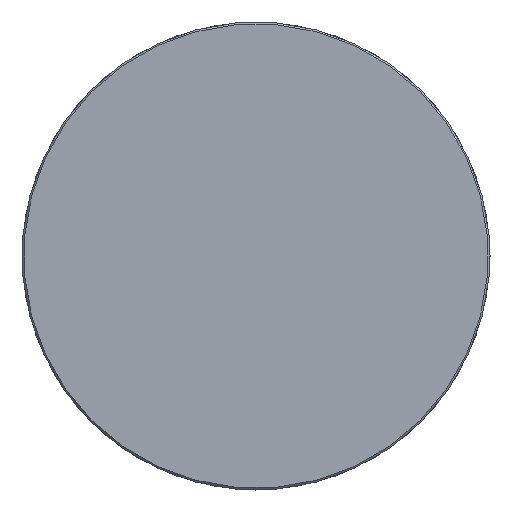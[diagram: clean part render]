
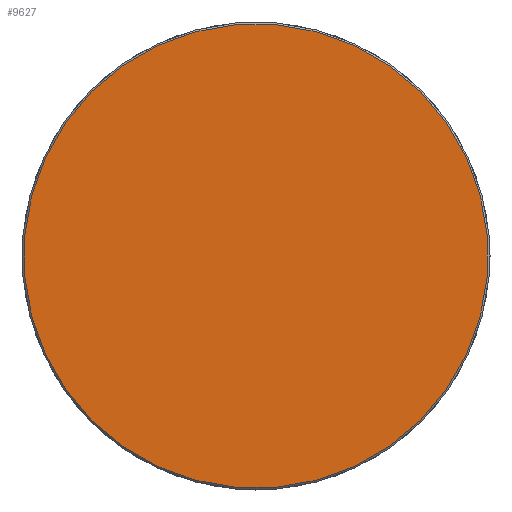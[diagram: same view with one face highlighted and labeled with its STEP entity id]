
A CAD part, left-side view. The second image highlights one B-rep face of the part: STEP entity #9627.
In plain terms, the highlighted planar face has unit normal (-1, 0, 0).
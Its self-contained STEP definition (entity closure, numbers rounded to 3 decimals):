
#391 = EDGE_LOOP ( 'NONE', ( #4073, #4225 ) ) ;
#2979 = CARTESIAN_POINT ( 'NONE',  ( -61.043, 1.63, -4.779 ) ) ;
#2980 = DIRECTION ( 'NONE',  ( -1., 0., 0. ) ) ;
#2981 = DIRECTION ( 'NONE',  ( 0., -0.707, -0.707 ) ) ;
#3534 = FACE_OUTER_BOUND ( 'NONE', #391, .T. ) ;
#4073 = ORIENTED_EDGE ( 'NONE', *, *, #19764, .T. ) ;
#4225 = ORIENTED_EDGE ( 'NONE', *, *, #19628, .T. ) ;
#5660 = CARTESIAN_POINT ( 'NONE',  ( -61.043, 20.015, -23.164 ) ) ;
#5662 = PLANE ( 'NONE',  #23131 ) ;
#5665 = DIRECTION ( 'NONE',  ( 1., 0., 0. ) ) ;
#5666 = DIRECTION ( 'NONE',  ( 0., -0.707, -0.707 ) ) ;
#9627 = ADVANCED_FACE ( 'NONE', ( #3534 ), #5662, .F. ) ;
#12077 = CARTESIAN_POINT ( 'NONE',  ( -61.043, 1.63, -4.779 ) ) ;
#12078 = DIRECTION ( 'NONE',  ( -1., 0., 0. ) ) ;
#12079 = DIRECTION ( 'NONE',  ( 0., -0.707, -0.707 ) ) ;
#16426 = CIRCLE ( 'NONE', #23643, 25.8 ) ;
#16611 = CIRCLE ( 'NONE', #20097, 25.8 ) ;
#19628 = EDGE_CURVE ( 'NONE', #24068, #24073, #16426, .T. ) ;
#19764 = EDGE_CURVE ( 'NONE', #24073, #24068, #16611, .T. ) ;
#20097 = AXIS2_PLACEMENT_3D ( 'NONE', #12077, #12078, #12079 ) ;
#23131 = AXIS2_PLACEMENT_3D ( 'NONE', #5660, #5665, #5666 ) ;
#23643 = AXIS2_PLACEMENT_3D ( 'NONE', #2979, #2980, #2981 ) ;
#24068 = VERTEX_POINT ( 'NONE', #25621 ) ;
#24073 = VERTEX_POINT ( 'NONE', #25630 ) ;
#25621 = CARTESIAN_POINT ( 'NONE',  ( -61.043, 19.874, 13.464 ) ) ;
#25630 = CARTESIAN_POINT ( 'NONE',  ( -61.043, -16.613, -23.022 ) ) ;
